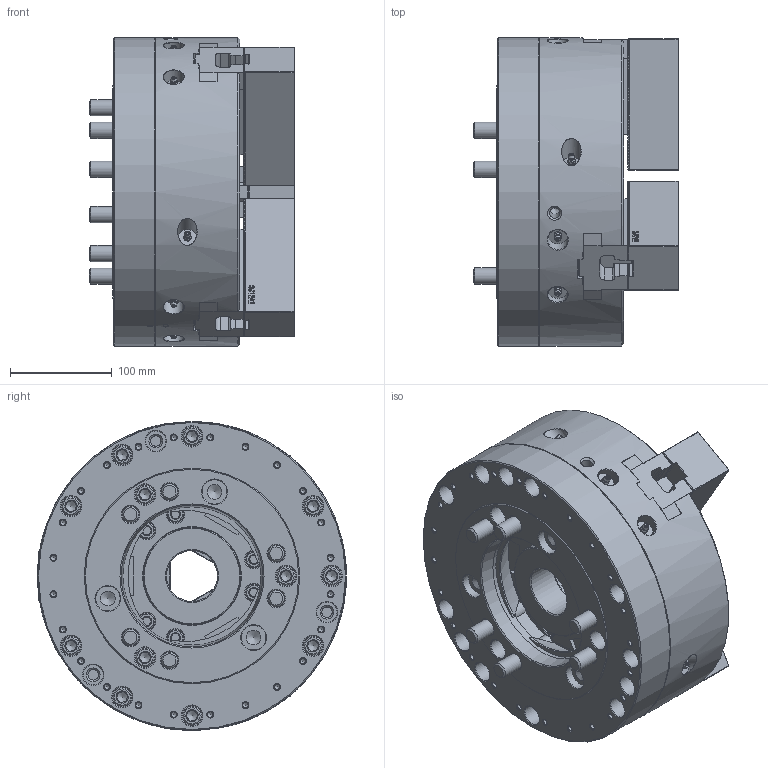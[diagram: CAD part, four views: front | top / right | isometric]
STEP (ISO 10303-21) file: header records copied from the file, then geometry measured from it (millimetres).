
FILE_DESCRIPTION (( 'STEP AP214' ), '1' );
FILE_NAME ('DT1_HOH-12K_OUTSIDE_VIEW_HUL.STEP', '2024-05-09T04:52:59', ( '' ), ( '' ), 'SwSTEP 2.0', 'SolidWorks 2022', '' );
FILE_SCHEMA (( 'AUTOMOTIVE_DESIGN' ));
Length unit declared in the file: millimetre
Products named in the file (9): DT1_HOH-12K_DRAWNUT^DT1_HOH-12K_ﾃﾞﾌｫﾙﾄ; Part3^DT1_HOH-12K_ﾃﾞﾌｫﾙﾄ; DT1_HOH-12K_SOFTJAW^DT1_HOH-12K_ﾃﾞﾌｫﾙﾄ; DT1_HOH-12K_M6x12^DT1_HOH-12K_ﾃﾞﾌｫﾙﾄ; DT1_HOH-12K_OUTSIDE_VIEW_HUL; DT1_HOH-12K_M14x45^DT1_HOH-12K_ﾃﾞﾌｫﾙﾄ; DT1_HOH-12K_COVER^DT1_HOH-12K_ﾃﾞﾌｫﾙﾄ; DT1_HOH-12K_M16x130^DT1_HOH-12K_ﾃﾞﾌｫﾙﾄ; DT1_HOH-12K_TNUT^DT1_HOH-12K_ﾃﾞﾌｫﾙﾄ
Assembly tree (24 placements, depth 2):
  DT1_HOH-12K_OUTSIDE_VIEW_HUL
    DT1_HOH-12K_SOFTJAW^DT1_HOH-12K_ﾃﾞﾌｫﾙﾄ  x3
    DT1_HOH-12K_TNUT^DT1_HOH-12K_ﾃﾞﾌｫﾙﾄ  x3
    DT1_HOH-12K_DRAWNUT^DT1_HOH-12K_ﾃﾞﾌｫﾙﾄ
    DT1_HOH-12K_COVER^DT1_HOH-12K_ﾃﾞﾌｫﾙﾄ
    Part3^DT1_HOH-12K_ﾃﾞﾌｫﾙﾄ
    DT1_HOH-12K_M6x12^DT1_HOH-12K_ﾃﾞﾌｫﾙﾄ  x3
    DT1_HOH-12K_M14x45^DT1_HOH-12K_ﾃﾞﾌｫﾙﾄ  x6
    DT1_HOH-12K_M16x130^DT1_HOH-12K_ﾃﾞﾌｫﾙﾄ  x6
Bounding box: 202 x 304 x 304 mm (x, y, z)
Volume: 9020691 mm3; surface area: 793287.9 mm2
Topology: 24 solids, 30 shells, 5389 faces, 15158 edges, 9982 vertices
Faces by surface type: plane 4033, cylinder 676, cone 384, bspline 251, torus 36, sphere 9
Full cylindrical faces by diameter (mm): 2 x9, 5 x3, 5.2 x24, 6 x3, 6.6 x3, 10.22 x3, 10.3 x5, 11 x3, 12 x6, 14 x6, 15 x6, 16 x6, 16.27 x6, 17 x12, 18.27 x12, 19 x3, 20 x21, 21.33 x6, 22 x6, 24.21 x3, 24.33 x6, 25 x6, 50 x1, 78 x1, 83 x2, 89 x1, 95.8 x2, 96 x3, 104.5 x2, 136 x1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
Entity records: 145741 total; most frequent: CARTESIAN_POINT 51878, ORIENTED_EDGE 20638, DIRECTION 16816, EDGE_CURVE 10319, LINE 7654, VECTOR 7654, VERTEX_POINT 6989, AXIS2_PLACEMENT_3D 4581
